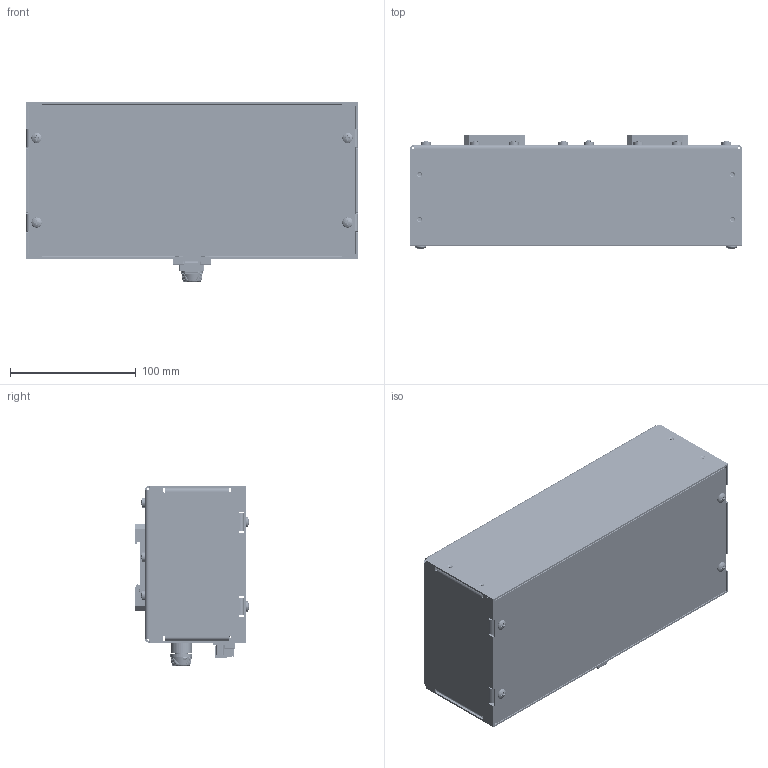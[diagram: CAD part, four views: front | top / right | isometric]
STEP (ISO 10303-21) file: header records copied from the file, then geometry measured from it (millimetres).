
FILE_DESCRIPTION(/* description */ ('STEP AP214'),/* implementation_level */ '2;1');
FILE_NAME(/* name */ '60c91259008aa53a9510d9fc',/* time_stamp */ '2021-06-15T20:49:33+00:00',/* author */ (''),/* organization */ (''),/* preprocessor_version */ 'ST-DEVELOPER v18.1',/* originating_system */ ' ',/* authorisation */ ' ');
FILE_SCHEMA (('AUTOMOTIVE_DESIGN {1 0 10303 214 3 1 1}'));
Products named in the file (87): 2404 & 4801 Battery Housing; 8-32 x 3/8"_18-8 SS 100 DEG FLAT HEAD PHIL MACHINE SCREW v1; Batttery Bracket; #8x1/4" 18-8 SS PAN HEAD PHILLIPS MACHINE SCREW v1 (2) <1>; Component1; #8x1/4" 18-8 SS PAN HEAD PHILLIPS MACHINE SCREW v1 (4) <1>; #8x1/4" 18-8 SS PAN HEAD PHILLIPS MACHINE SCREW v1 (15) <1>; #8x1/4" 18-8 SS PAN HEAD PHILLIPS MACHINE SCREW v1 (14) <1>; #8x1/4" 18-8 SS PAN HEAD PHILLIPS MACHINE SCREW v1 (5) <1>; #4-40 x 3/8 flt hd screw 90471A160; Cover; #8x1/4" 18-8 SS PAN HEAD PHILLIPS MACHINE SCREW v1 (12) <1>; #8x1/4" 18-8 SS PAN HEAD PHILLIPS MACHINE SCREW v1 (6) <1>; #4-4- Hex Nut 91841A005 (1); #8x1/4" 18-8 SS PAN HEAD PHILLIPS MACHINE SCREW v1 (3) <1>; #8x1/4" 18-8 SS PAN HEAD PHILLIPS MACHINE SCREW v1 (1) <1>; Phoenix 2 Pos Connector 1777989_08_MSTB-2-5-2-STF-5-08 v1 <1>; MSTB_2_5-2-5_08; #8x1/4" 18-8 SS PAN HEAD PHILLIPS MACHINE SCREW v1 <1>; dinm15v2-rc - Winford DIN Clip v1 (1) <1>; Spring^DINM15V2-RC-Assy (1); DINM15V2-RC-clip (1); Spring clip2015-11-27 (1); Phoenix 2 pos pnl mount socket 0710170_03_DFK-MSTB-2-5-2-GF-5-08 v1 <
1>; Gewindebuchse; DFK-MSTB_2.5-GF-5.08_GEH; DFK-2.8-MSTB_2.5_METALL.1; #8x1/4" 18-8 SS PAN HEAD PHILLIPS MACHINE SCREW v1 (9) <1>; #8x1/4" 18-8 SS PAN HEAD PHILLIPS MACHINE SCREW v1 (10) <1>; #8x1/4" 18-8 SS PAN HEAD PHILLIPS MACHINE SCREW v1 (11) <1>; #8x1/4" 18-8 SS PAN HEAD PHILLIPS MACHINE SCREW v1 (8) <1>; #8x1/4" 18-8 SS PAN HEAD PHILLIPS MACHINE SCREW v1 (13) <1>; Fuse Holder v3 <1>; Body; Rear Body; Solder Ring; Gasket; Nut; Solder Lug; Cap ...
Assembly tree (145 placements, depth 5):
  2404 & 4801 Battery Housing
    8-32 x 3/8"_18-8 SS 100 DEG FLAT HEAD PHIL MACHINE SCREW v1  x6
    Batttery Bracket  x6
    #8x1/4" 18-8 SS PAN HEAD PHILLIPS MACHINE SCREW v1 (2) <1>
      Component1
    #8x1/4" 18-8 SS PAN HEAD PHILLIPS MACHINE SCREW v1 (4) <1>
      Component1
    #8x1/4" 18-8 SS PAN HEAD PHILLIPS MACHINE SCREW v1 (15) <1>
      Component1
    #8x1/4" 18-8 SS PAN HEAD PHILLIPS MACHINE SCREW v1 (14) <1>
      Component1
    #8x1/4" 18-8 SS PAN HEAD PHILLIPS MACHINE SCREW v1 (5) <1>
      Component1
    #4-40 x 3/8 flt hd screw 90471A160  x2
    Cover
    #8x1/4" 18-8 SS PAN HEAD PHILLIPS MACHINE SCREW v1 (12) <1>
      Component1
    #8x1/4" 18-8 SS PAN HEAD PHILLIPS MACHINE SCREW v1 (6) <1>
      Component1
    #4-4- Hex Nut 91841A005 (1)  x2
    #8x1/4" 18-8 SS PAN HEAD PHILLIPS MACHINE SCREW v1 (3) <1>
      Component1
    #8x1/4" 18-8 SS PAN HEAD PHILLIPS MACHINE SCREW v1 (1) <1>
      Component1
    Phoenix 2 Pos Connector 1777989_08_MSTB-2-5-2-STF-5-08 v1 <1>
      MSTB_2_5-2-5_08
    #8x1/4" 18-8 SS PAN HEAD PHILLIPS MACHINE SCREW v1 <1>
      Component1
    dinm15v2-rc - Winford DIN Clip v1 (1) <1>
      Spring^DINM15V2-RC-Assy (1)  x2
      DINM15V2-RC-clip (1)
      Spring clip2015-11-27 (1)
    Phoenix 2 pos pnl mount socket 0710170_03_DFK-MSTB-2-5-2-GF-5-08 v1 <
1>
      Gewindebuchse  x2
      DFK-MSTB_2.5-GF-5.08_GEH
      DFK-2.8-MSTB_2.5_METALL.1  x2
    #8x1/4" 18-8 SS PAN HEAD PHILLIPS MACHINE SCREW v1 (9) <1>
      Component1
    #8x1/4" 18-8 SS PAN HEAD PHILLIPS MACHINE SCREW v1 (10) <1>
      Component1
    #8x1/4" 18-8 SS PAN HEAD PHILLIPS MACHINE SCREW v1 (11) <1>
      Component1
    #8x1/4" 18-8 SS PAN HEAD PHILLIPS MACHINE SCREW v1 (8) <1>
      Component1
    #8x1/4" 18-8 SS PAN HEAD PHILLIPS MACHINE SCREW v1 (13) <1>
      Component1
    Fuse Holder v3 <1>
      Body
      Rear Body
      Solder Ring
      Gasket
      Nut
      Solder Lug
      Cap
    Housing <1>
      PEM $8-32 18-8 SS PRESS-IN NUT FOR SHEET MTL v2 (6) <1>
        Component1
      PEM $8-32 18-8 SS PRESS-IN NUT FOR SHEET MTL v2 (3) <1>
        Component1
      0.120 Pop Rivet Deform v4 (7) <1>
Bounding box: 263.65 x 90.83 x 143.02 mm (x, y, z)
Volume: 258027.7 mm3; surface area: 332474.2 mm2
Topology: 85 solids, 85 shells, 6020 faces, 18100 edges, 12434 vertices
Faces by surface type: plane 3732, cylinder 1599, cone 342, bspline 270, torus 55, sphere 22
Full cylindrical faces by diameter (mm): 0.609 x1, 1.4 x2, 1.642 x8, 1.75 x2, 2.5 x4, 2.561 x2, 2.8 x2, 2.819 x8, 2.845 x26, 3.191 x8, 3.2 x2, 3.327 x16, 3.6 x2, 3.7 x4, 3.783 x2, 3.8 x2, 3.9 x2, 4 x12, 4.166 x54, 4.466 x8, 4.763 x18, 4.775 x8, 6 x2, 7.874 x22, 8.179 x16, 9 x6, 9.724 x7, 10.209 x1, 12.241 x1, 16.891 x2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
Entity records: 72556 total; most frequent: CARTESIAN_POINT 33428, ORIENTED_EDGE 8002, DIRECTION 7002, EDGE_CURVE 4001, VERTEX_POINT 2827, AXIS2_PLACEMENT_3D 2394, LINE 2214, VECTOR 2214
